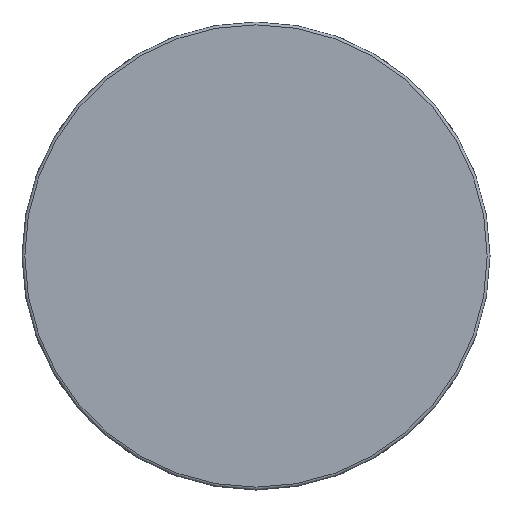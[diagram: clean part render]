
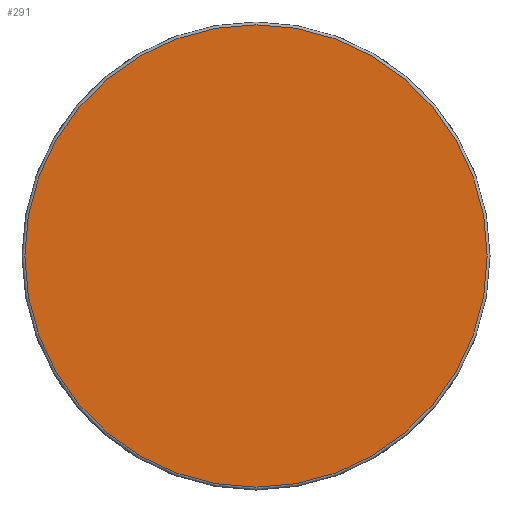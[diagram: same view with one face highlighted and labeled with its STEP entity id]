
A CAD part, front view. The second image highlights one B-rep face of the part: STEP entity #291.
In plain terms, the highlighted planar face has unit normal (0, -1, 0).
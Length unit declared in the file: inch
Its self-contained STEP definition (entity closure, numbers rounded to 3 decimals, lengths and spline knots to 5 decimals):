
#18=PLANE('',#331);
#51=FACE_OUTER_BOUND('',#68,.T.);
#68=EDGE_LOOP('',(#215,#216));
#86=CIRCLE('',#323,0.49);
#90=CIRCLE('',#327,0.49);
#124=VERTEX_POINT('',#576);
#125=VERTEX_POINT('',#577);
#157=EDGE_CURVE('',#124,#125,#86,.T.);
#161=EDGE_CURVE('',#125,#124,#90,.T.);
#215=ORIENTED_EDGE('',*,*,#157,.F.);
#216=ORIENTED_EDGE('',*,*,#161,.F.);
#291=ADVANCED_FACE('',(#51),#18,.T.);
#323=AXIS2_PLACEMENT_3D('',#578,#382,#383);
#327=AXIS2_PLACEMENT_3D('',#584,#390,#391);
#331=AXIS2_PLACEMENT_3D('',#591,#399,#400);
#382=DIRECTION('center_axis',(0.,1.,0.));
#383=DIRECTION('ref_axis',(0.,0.,1.));
#390=DIRECTION('center_axis',(0.,1.,0.));
#391=DIRECTION('ref_axis',(0.,0.,1.));
#399=DIRECTION('center_axis',(0.,-1.,0.));
#400=DIRECTION('ref_axis',(0.,0.,-1.));
#576=CARTESIAN_POINT('',(0.,0.,-0.49));
#577=CARTESIAN_POINT('',(0.,0.,0.49));
#578=CARTESIAN_POINT('Origin',(0.,0.,0.));
#584=CARTESIAN_POINT('Origin',(0.,0.,0.));
#591=CARTESIAN_POINT('Origin',(0.,0.,0.));
